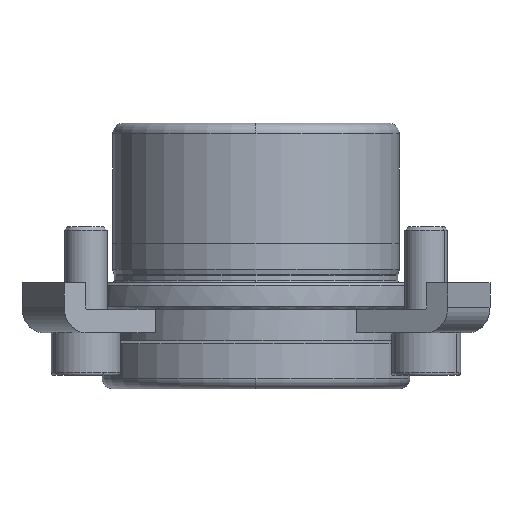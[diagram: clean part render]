
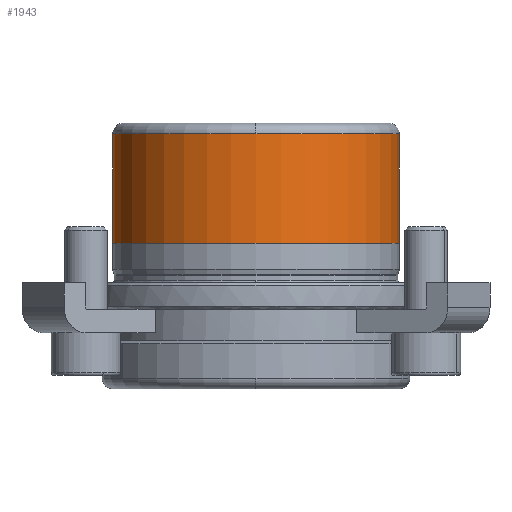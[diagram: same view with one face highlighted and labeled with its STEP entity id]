
A CAD part, front view. The second image highlights one B-rep face of the part: STEP entity #1943.
In plain terms, the highlighted cylindrical face has radius 26.995 mm (diameter 53.99 mm), a partial arc.
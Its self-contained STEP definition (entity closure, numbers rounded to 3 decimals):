
#1102=CARTESIAN_POINT('',(26.995,0.,7.4));
#1103=VERTEX_POINT('',#1102);
#1104=CARTESIAN_POINT('',(26.995,0.,28.));
#1105=VERTEX_POINT('',#1104);
#1106=CARTESIAN_POINT('',(26.995,0.,7.4));
#1107=DIRECTION('',(0.0,0.0,1.0));
#1108=VECTOR('',#1107,20.6);
#1109=LINE('',#1106,#1108);
#1110=EDGE_CURVE('',#1103,#1105,#1109,.T.);
#1112=CARTESIAN_POINT('',(-26.995,0.,7.4));
#1113=VERTEX_POINT('',#1112);
#1121=CARTESIAN_POINT('',(-26.995,0.,28.0));
#1122=VERTEX_POINT('',#1121);
#1123=CARTESIAN_POINT('',(-26.995,0.,7.4));
#1124=DIRECTION('',(0.0,0.0,1.0));
#1125=VECTOR('',#1124,20.6);
#1126=LINE('',#1123,#1125);
#1127=EDGE_CURVE('',#1113,#1122,#1126,.T.);
#1163=CARTESIAN_POINT('',(0.,-26.995,28.));
#1164=VERTEX_POINT('',#1163);
#1165=CARTESIAN_POINT('',(0.0,0.,28.));
#1166=DIRECTION('',(0.0,0.0,-1.0));
#1167=DIRECTION('',(1.0,0.0,0.0));
#1168=AXIS2_PLACEMENT_3D('',#1165,#1166,#1167);
#1169=CIRCLE('',#1168,26.995);
#1170=EDGE_CURVE('',#1164,#1122,#1169,.T.);
#1914=CARTESIAN_POINT('',(0.0,0.,28.));
#1915=DIRECTION('',(0.0,0.0,-1.0));
#1916=DIRECTION('',(1.0,0.0,0.0));
#1917=AXIS2_PLACEMENT_3D('',#1914,#1915,#1916);
#1918=CIRCLE('',#1917,26.995);
#1919=EDGE_CURVE('',#1105,#1164,#1918,.T.);
#1925=CARTESIAN_POINT('',(0.0,0.,17.7));
#1926=DIRECTION('',(0.0,0.,-1.0));
#1927=DIRECTION('',(1.0,0.0,0.0));
#1928=AXIS2_PLACEMENT_3D('',#1925,#1926,#1927);
#1929=CYLINDRICAL_SURFACE('',#1928,26.995);
#1930=ORIENTED_EDGE('',*,*,#1110,.T.);
#1931=ORIENTED_EDGE('',*,*,#1919,.T.);
#1932=ORIENTED_EDGE('',*,*,#1170,.T.);
#1933=ORIENTED_EDGE('',*,*,#1127,.F.);
#1934=CARTESIAN_POINT('',(0.0,0.,7.4));
#1935=DIRECTION('',(0.0,0.0,-1.0));
#1936=DIRECTION('',(1.0,0.0,0.0));
#1937=AXIS2_PLACEMENT_3D('',#1934,#1935,#1936);
#1938=CIRCLE('',#1937,26.995);
#1939=EDGE_CURVE('',#1103,#1113,#1938,.T.);
#1940=ORIENTED_EDGE('',*,*,#1939,.F.);
#1941=EDGE_LOOP('',(#1930,#1931,#1932,#1933,#1940));
#1942=FACE_OUTER_BOUND('',#1941,.T.);
#1943=ADVANCED_FACE('',(#1942),#1929,.T.);
